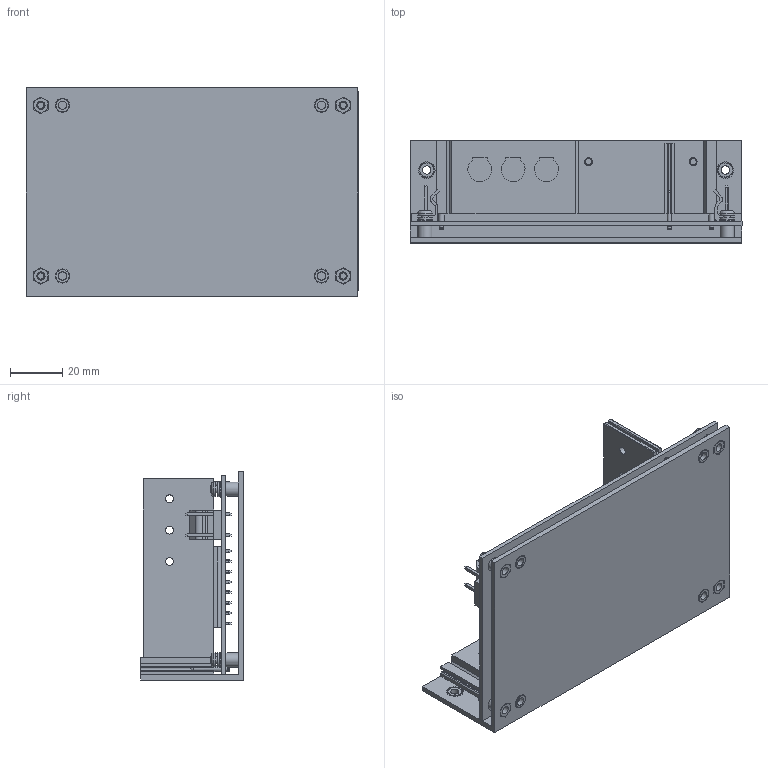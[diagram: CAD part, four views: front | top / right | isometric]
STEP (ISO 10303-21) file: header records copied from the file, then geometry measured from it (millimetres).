
FILE_DESCRIPTION (( 'STEP AP214' ), '1' );
FILE_NAME ('SDS180.STEP', '2013-02-08T21:19:35', ( 'dcook' ), ( '' ), 'SwSTEP 2.0', 'SolidWorks 2013', '' );
FILE_SCHEMA (( 'AUTOMOTIVE_DESIGN' ));
Length unit declared in the file: inch
Products named in the file (24): 41-17448-01; 41-17448-011; 41-17448-0111; 41-17448-02; 41-17448-0121; 41-17448-021; 41-17448-031; 41-17448-3; 41-17448-0113; 41-17448-0143; 41-17448-05; NSET3-6; NSET3-6_2; 09-65-2088; NSET3-6_3; 40-01529-01; 55-03019-01; 01063402; 40-05309-01; SW3dPS-DIN EN ISO 7046-1(M3X4)_M3x4-H; SDS180; SW3dPS-DIN EN ISO 7046-1(M3X6)_M3x4-H; 41-17448-44
Assembly tree (26 placements, depth 3):
  SDS180
    01063402
    NSET3-6  x4
      NSET3-6
      NSET3-6_3
      NSET3-6_2
    41-17448-44
      41-17448-05
      41-17448-0143
      41-17448-0113
      41-17448-3
      41-17448-031
      41-17448-021
      41-17448-0121
      41-17448-02
      41-17448-0111
      41-17448-011
      41-17448-01
    SW3dPS-DIN EN ISO 7046-1(M3X6)_M3x4-H
    SW3dPS-DIN EN ISO 7046-1(M3X4)_M3x4-H
    40-05309-01
    55-03019-01
    40-01529-01
    09-65-2088
Bounding box: 127 x 39.2 x 79.6 mm (x, y, z)
Volume: 62710.7 mm3; surface area: 70940.3 mm2
Topology: 30 solids, 30 shells, 1345 faces, 3624 edges, 2401 vertices
Faces by surface type: plane 877, cylinder 440, cone 16, bspline 12
Full cylindrical faces by diameter (mm): 1.5 x8, 1.55 x4, 1.6 x4, 1.75 x12, 2.15 x2, 2.387 x2, 2.64 x8, 2.675 x2, 3 x9, 3.15 x10, 4.4 x6, 4.8 x4, 5.4 x24, 5.5 x6, 6 x4
Entity records: 39880 total; most frequent: CARTESIAN_POINT 7340, ORIENTED_EDGE 6528, DIRECTION 6418, EDGE_CURVE 3264, LINE 2350, VECTOR 2350, VERTEX_POINT 2232, AXIS2_PLACEMENT_3D 2034
